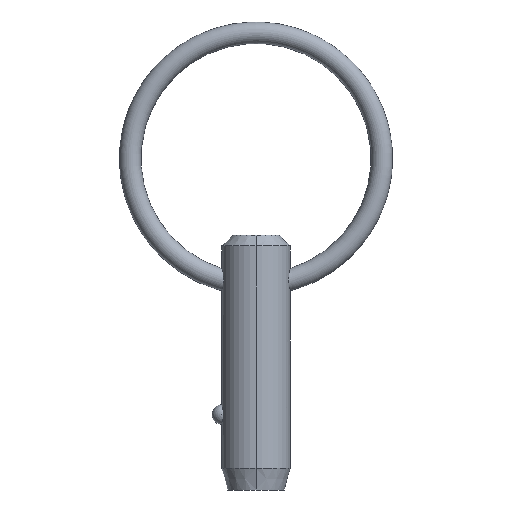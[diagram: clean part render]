
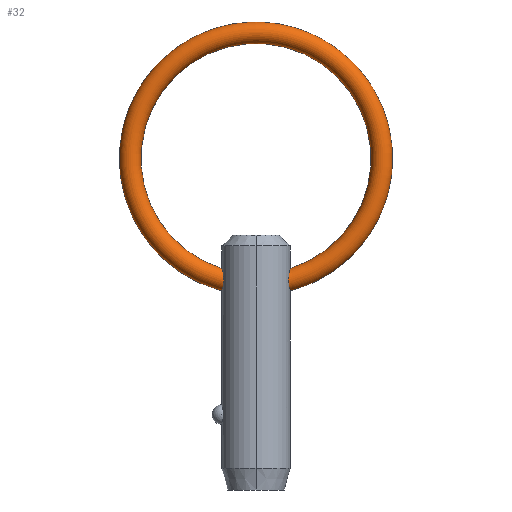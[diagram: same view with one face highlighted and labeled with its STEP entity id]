
A CAD part, left-side view. The second image highlights one B-rep face of the part: STEP entity #32.
In plain terms, the highlighted toroidal (fillet/blend) face has major radius 11.7 mm and minor radius 1 mm.
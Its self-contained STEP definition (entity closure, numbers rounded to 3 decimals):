
#16 = EDGE_LOOP ( 'NONE', ( #443, #160, #415, #41 ) ) ;
#32 = ADVANCED_FACE ( 'NONE', ( #402 ), #231, .T. ) ;
#35 = CARTESIAN_POINT ( 'NONE',  ( 0., 3.175, 10.603 ) ) ;
#36 = CARTESIAN_POINT ( 'NONE',  ( -0.514, 3.136, 10.729 ) ) ;
#37 = DIRECTION ( 'NONE',  ( 1., 0., 0. ) ) ;
#40 = CARTESIAN_POINT ( 'NONE',  ( -0.983, -3.02, 11.359 ) ) ;
#41 = ORIENTED_EDGE ( 'NONE', *, *, #270, .F. ) ;
#42 = CARTESIAN_POINT ( 'NONE',  ( 0., -3.175, 12.682 ) ) ;
#46 = CARTESIAN_POINT ( 'NONE',  ( -0.615, -3.116, 12.453 ) ) ;
#55 = DIRECTION ( 'NONE',  ( 1., 0., 0. ) ) ;
#59 = CARTESIAN_POINT ( 'NONE',  ( 0., 3.175, 10.603 ) ) ;
#70 = AXIS2_PLACEMENT_3D ( 'NONE', #213, #37, #325 ) ;
#75 = CARTESIAN_POINT ( 'NONE',  ( -0.884, 3.055, 12.157 ) ) ;
#78 = CARTESIAN_POINT ( 'NONE',  ( -0.888, 3.049, 11.108 ) ) ;
#79 = CARTESIAN_POINT ( 'NONE',  ( -0.628, 3.114, 10.804 ) ) ;
#82 = CARTESIAN_POINT ( 'NONE',  ( -0.508, -3.136, 12.535 ) ) ;
#84 = EDGE_CURVE ( 'NONE', #436, #373, #299, .T. ) ;
#88 = CARTESIAN_POINT ( 'NONE',  ( -0.269, -3.166, 10.629 ) ) ;
#95 = AXIS2_PLACEMENT_3D ( 'NONE', #463, #280, #470 ) ;
#114 = CARTESIAN_POINT ( 'NONE',  ( 0., 3.175, 12.682 ) ) ;
#115 = CARTESIAN_POINT ( 'NONE',  ( -0.264, -3.165, 12.644 ) ) ;
#118 = VERTEX_POINT ( 'NONE', #180 ) ;
#122 = CARTESIAN_POINT ( 'NONE',  ( -1.004, -3.012, 11.495 ) ) ;
#123 = EDGE_CURVE ( 'NONE', #436, #326, #342, .T. ) ;
#148 = CARTESIAN_POINT ( 'NONE',  ( -0.982, 3.02, 11.358 ) ) ;
#149 = CARTESIAN_POINT ( 'NONE',  ( -0.992, 3.016, 11.893 ) ) ;
#157 = CARTESIAN_POINT ( 'NONE',  ( -0.134, -3.175, 10.603 ) ) ;
#160 = ORIENTED_EDGE ( 'NONE', *, *, #84, .F. ) ;
#175 = AXIS2_PLACEMENT_3D ( 'NONE', #237, #55, #305 ) ;
#180 = CARTESIAN_POINT ( 'NONE',  ( 0., -3.175, 10.603 ) ) ;
#183 = CARTESIAN_POINT ( 'NONE',  ( 0., -3.175, 10.603 ) ) ;
#195 = CARTESIAN_POINT ( 'NONE',  ( 0., -3.175, 12.682 ) ) ;
#200 = CARTESIAN_POINT ( 'NONE',  ( 0., 3.175, 12.682 ) ) ;
#213 = CARTESIAN_POINT ( 'NONE',  ( 0., 0., 22.9 ) ) ;
#227 = CARTESIAN_POINT ( 'NONE',  ( -0.888, -3.049, 11.109 ) ) ;
#231 = TOROIDAL_SURFACE ( 'NONE', #95, 11.7, 1. ) ;
#237 = CARTESIAN_POINT ( 'NONE',  ( 0., 0., 22.9 ) ) ;
#257 = CARTESIAN_POINT ( 'NONE',  ( -0.133, 3.175, 10.603 ) ) ;
#270 = EDGE_CURVE ( 'NONE', #118, #326, #376, .T. ) ;
#280 = DIRECTION ( 'NONE',  ( 1., 0., 0. ) ) ;
#287 = CARTESIAN_POINT ( 'NONE',  ( -0.268, 3.166, 10.629 ) ) ;
#290 = CARTESIAN_POINT ( 'NONE',  ( -0.815, 3.07, 10.995 ) ) ;
#293 = CARTESIAN_POINT ( 'NONE',  ( -0.328, -3.159, 12.621 ) ) ;
#296 = CARTESIAN_POINT ( 'NONE',  ( -0.133, -3.173, 12.674 ) ) ;
#299 = B_SPLINE_CURVE_WITH_KNOTS ( 'NONE', 3,
 ( #114, #398, #330, #442, #479, #75, #149, #475, #148, #78, #290, #79, #36, #287, #257, #35 ),
 .UNSPECIFIED., .F., .F.,
 ( 4, 2, 2, 2, 2, 2, 2, 4 ),
 ( 0.004, 0.004, 0.005, 0.005, 0.006, 0.006, 0.007, 0.007 ),
 .UNSPECIFIED. ) ;
#305 = DIRECTION ( 'NONE',  ( 0., 0., -1. ) ) ;
#325 = DIRECTION ( 'NONE',  ( 0., 0., -1. ) ) ;
#326 = VERTEX_POINT ( 'NONE', #195 ) ;
#330 = CARTESIAN_POINT ( 'NONE',  ( -0.269, 3.166, 12.65 ) ) ;
#335 = CARTESIAN_POINT ( 'NONE',  ( -0.882, -3.055, 12.16 ) ) ;
#339 = CARTESIAN_POINT ( 'NONE',  ( -0.629, -3.114, 10.805 ) ) ;
#342 = CIRCLE ( 'NONE', #70, 10.7 ) ;
#344 = EDGE_CURVE ( 'NONE', #373, #118, #353, .T. ) ;
#353 = CIRCLE ( 'NONE', #175, 12.7 ) ;
#366 = CARTESIAN_POINT ( 'NONE',  ( -0.516, -3.135, 10.731 ) ) ;
#369 = CARTESIAN_POINT ( 'NONE',  ( -0.067, -3.175, 12.682 ) ) ;
#373 = VERTEX_POINT ( 'NONE', #59 ) ;
#376 = B_SPLINE_CURVE_WITH_KNOTS ( 'NONE', 3,
 ( #183, #157, #88, #366, #339, #414, #227, #40, #122, #444, #335, #46, #82, #293, #115, #296, #369, #42 ),
 .UNSPECIFIED., .F., .F.,
 ( 4, 2, 2, 2, 2, 2, 2, 2, 4 ),
 ( 0.006, 0.006, 0.007, 0.007, 0.008, 0.008, 0.009, 0.009, 0.009 ),
 .UNSPECIFIED. ) ;
#398 = CARTESIAN_POINT ( 'NONE',  ( -0.134, 3.175, 12.682 ) ) ;
#402 = FACE_OUTER_BOUND ( 'NONE', #16, .T. ) ;
#414 = CARTESIAN_POINT ( 'NONE',  ( -0.815, -3.07, 10.995 ) ) ;
#415 = ORIENTED_EDGE ( 'NONE', *, *, #123, .T. ) ;
#436 = VERTEX_POINT ( 'NONE', #200 ) ;
#442 = CARTESIAN_POINT ( 'NONE',  ( -0.51, 3.136, 12.534 ) ) ;
#443 = ORIENTED_EDGE ( 'NONE', *, *, #344, .F. ) ;
#444 = CARTESIAN_POINT ( 'NONE',  ( -0.991, -3.016, 11.896 ) ) ;
#463 = CARTESIAN_POINT ( 'NONE',  ( 0., 0., 22.9 ) ) ;
#470 = DIRECTION ( 'NONE',  ( 0., 0., -1. ) ) ;
#475 = CARTESIAN_POINT ( 'NONE',  ( -1.003, 3.012, 11.493 ) ) ;
#479 = CARTESIAN_POINT ( 'NONE',  ( -0.617, 3.116, 12.451 ) ) ;
